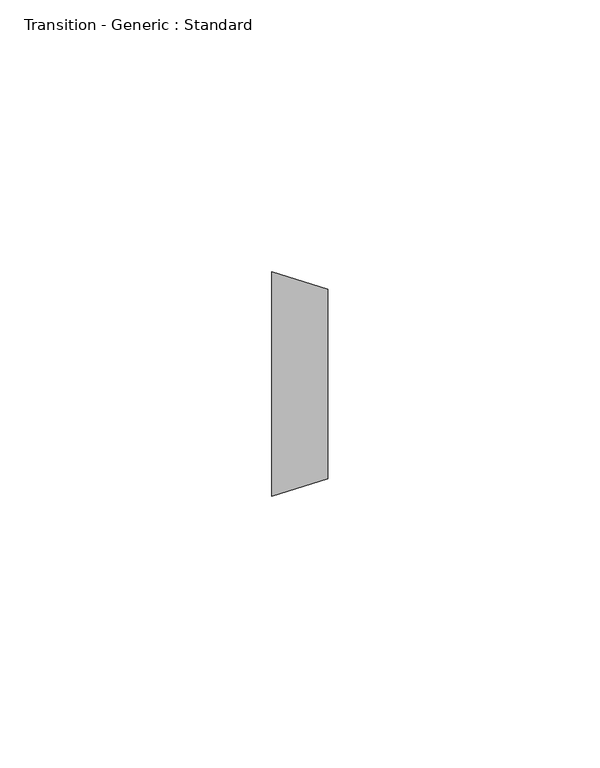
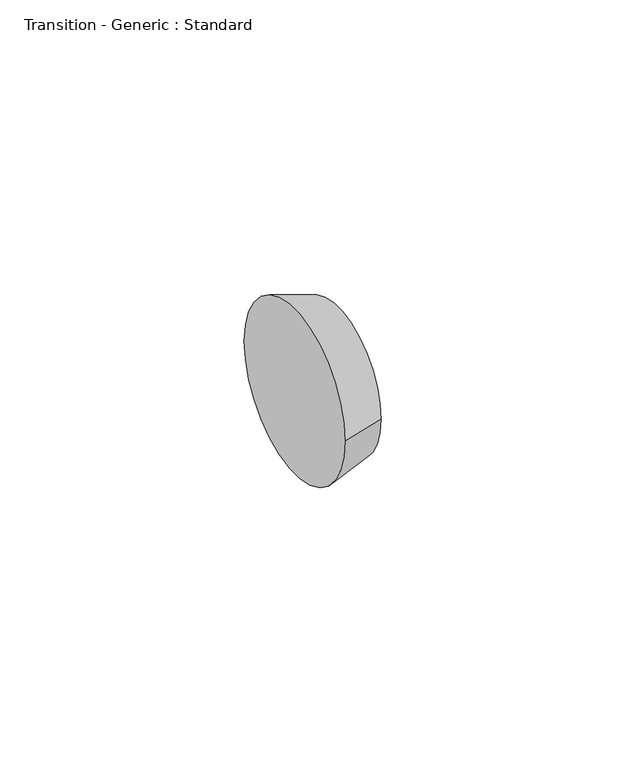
"""IFC4 building model written with IfcOpenShell, lengths in millimetres: pipe fitting geometry, Transition - Generic : Standard."""

from ifc_helpers import new_model, si_unit, frame, origin, place, context, project, spatial, polyline, circle_curve, source, transform, mapped, element, save
from ifc_brep_helpers import plane_surface, revolved_surface, advanced_brep


def transition_generic_standard_d1cf43c0(model_context):
    return source(origin(), model_context, "Body", "AdvancedBrep", [
        advanced_brep(
        [(10.31875, -17.4625, 0.0), (10.31875, 17.4625, 0.0), (0.0, -20.6375, 0.0), (0.0, 20.6375, 0.0)],
        [
            (0, 1, circle_curve(frame((10.31875, 0.0, 0.0), z_axis=(1.0, 0.0, 0.0), x_axis=(0.0, -1.0, 0.0)), 17.4625)),
            (1, 0, circle_curve(frame((10.31875, 0.0, 0.0), z_axis=(1.0, 0.0, 0.0), x_axis=(0.0, 1.0, 0.0)), 17.4625)),
            (2, 3, circle_curve(frame((0.0, 0.0, 0.0), z_axis=(-1.0, 0.0, 0.0), x_axis=(0.0, 1.0, 0.0)), 20.6375)),
            (3, 2, circle_curve(frame((0.0, 0.0, 0.0), z_axis=(-1.0, 0.0, 0.0), x_axis=(0.0, -1.0, 0.0)), 20.6375)),
            (3, 1),
            (0, 2),
        ],
        [
            plane_surface(frame((10.31875, 0.0, 0.0), z_axis=(1.0, 0.0, 0.0), x_axis=(0.0, 0.0, -1.0))),
            plane_surface(frame((0.0, 0.0, 0.0), z_axis=(-1.0, 0.0, 0.0), x_axis=(0.0, 0.0, -1.0))),
            revolved_surface(polyline([(10.318750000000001, -17.4625, 0.0), (0.0, -20.6375, 0.0)]), (67.071875, 0.0, 0.0), (-1.0, 0.0, 0.0)),
            revolved_surface(polyline([(10.318750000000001, 17.4625, 0.0), (0.0, 20.6375, 0.0)]), (67.071875, 0.0, 0.0), (-1.0, 0.0, 0.0)),
        ],
        [
            (0, [[1, 2]]),
            (1, [[3, 4]]),
            (2, [[-4, 5, -1, 6]]),
            (3, [[-3, -6, -2, -5]]),
        ],
    ),
    ])


if __name__ == "__main__":
    model = new_model("IFC4")
    model_context = context("Model", 3, world=origin())
    ifc_project = project(units=[si_unit("LENGTHUNIT", "METRE", prefix="MILLI")], contexts=[model_context])
    site = spatial("IfcSite", under=ifc_project)
    building = spatial("IfcBuilding", under=site)
    placement = place(None, origin())
    transition_generic_standard_shape = transition_generic_standard_d1cf43c0(model_context)
    element("IfcPipeFitting", 1, ObjectType="Transition - Generic : Standard", at=placement, inside=building, context=model_context, shape_type="MappedRepresentation", body=[
        mapped(transition_generic_standard_shape, transform((0.0, 0.0, 0.0), x_axis=(1.0, 0.0, 0.0), y_axis=(0.0, 1.0, 0.0), z_axis=(0.0, 0.0, 1.0))),
    ])
    save(model, "model.ifc")
